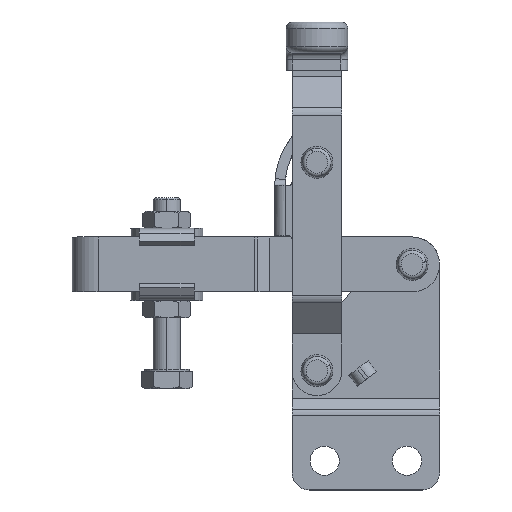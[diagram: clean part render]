
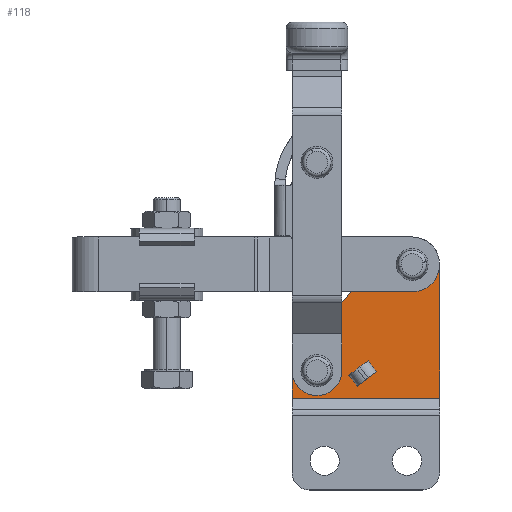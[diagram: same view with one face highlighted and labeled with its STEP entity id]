
A CAD part, top view. The second image highlights one B-rep face of the part: STEP entity #118.
In plain terms, the highlighted planar face has unit normal (0, 0, 1).
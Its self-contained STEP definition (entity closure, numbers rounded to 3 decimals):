
#118 = ADVANCED_FACE ( 'NONE', ( #2155, #6765, #9524, #1422 ), #7666, .T. ) ;
#144 = DIRECTION ( 'NONE',  ( 0., 0., 1. ) ) ;
#219 = VECTOR ( 'NONE', #7259, 1000. ) ;
#312 = ORIENTED_EDGE ( 'NONE', *, *, #1963, .F. ) ;
#342 = CARTESIAN_POINT ( 'NONE',  ( -20.817, 10.907, 0. ) ) ;
#398 = CIRCLE ( 'NONE', #3505, 2.55 ) ;
#442 = ORIENTED_EDGE ( 'NONE', *, *, #714, .T. ) ;
#564 = ORIENTED_EDGE ( 'NONE', *, *, #8556, .F. ) ;
#714 = EDGE_CURVE ( 'NONE', #5266, #9568, #3517, .T. ) ;
#768 = EDGE_CURVE ( 'NONE', #3185, #1654, #6420, .T. ) ;
#813 = VECTOR ( 'NONE', #2166, 1000. ) ;
#983 = VECTOR ( 'NONE', #10912, 1000. ) ;
#1044 = VERTEX_POINT ( 'NONE', #3323 ) ;
#1142 = CARTESIAN_POINT ( 'NONE',  ( -24., 3.5, 0. ) ) ;
#1282 = EDGE_CURVE ( 'NONE', #6265, #6826, #398, .T. ) ;
#1319 = DIRECTION ( 'NONE',  ( 0., 0., -1. ) ) ;
#1420 = CARTESIAN_POINT ( 'NONE',  ( -8., 38.95, 0. ) ) ;
#1422 = FACE_BOUND ( 'NONE', #8669, .T. ) ;
#1469 = ORIENTED_EDGE ( 'NONE', *, *, #9418, .F. ) ;
#1581 = DIRECTION ( 'NONE',  ( -0.602, 0.799, 0. ) ) ;
#1654 = VERTEX_POINT ( 'NONE', #10874 ) ;
#1703 = ORIENTED_EDGE ( 'NONE', *, *, #768, .F. ) ;
#1897 = LINE ( 'NONE', #1964, #9809 ) ;
#1963 = EDGE_CURVE ( 'NONE', #8527, #4979, #4682, .T. ) ;
#1964 = CARTESIAN_POINT ( 'NONE',  ( -43., 48.25, 0. ) ) ;
#2065 = EDGE_CURVE ( 'NONE', #6826, #6265, #6041, .T. ) ;
#2085 = VERTEX_POINT ( 'NONE', #6712 ) ;
#2155 = FACE_BOUND ( 'NONE', #9855, .T. ) ;
#2166 = DIRECTION ( 'NONE',  ( 0., -1., 0. ) ) ;
#2197 = LINE ( 'NONE', #8568, #3478 ) ;
#2215 = CARTESIAN_POINT ( 'NONE',  ( -43., 48.25, 0. ) ) ;
#2425 = VERTEX_POINT ( 'NONE', #9050 ) ;
#2486 = LINE ( 'NONE', #9831, #4255 ) ;
#2740 = CARTESIAN_POINT ( 'NONE',  ( -33.2, 8., 0. ) ) ;
#3185 = VERTEX_POINT ( 'NONE', #2740 ) ;
#3264 = EDGE_LOOP ( 'NONE', ( #5918, #6320 ) ) ;
#3275 = CARTESIAN_POINT ( 'NONE',  ( -24., 3.5, 0. ) ) ;
#3311 = EDGE_CURVE ( 'NONE', #10091, #1044, #4298, .T. ) ;
#3323 = CARTESIAN_POINT ( 'NONE',  ( -18.41, 7.713, 0. ) ) ;
#3397 = EDGE_CURVE ( 'NONE', #1044, #10119, #2486, .T. ) ;
#3468 = CARTESIAN_POINT ( 'NONE',  ( -29.786, 26.492, 0. ) ) ;
#3478 = VECTOR ( 'NONE', #5110, 1000. ) ;
#3505 = AXIS2_PLACEMENT_3D ( 'NONE', #1420, #7964, #9620 ) ;
#3517 = LINE ( 'NONE', #11698, #219 ) ;
#3856 = DIRECTION ( 'NONE',  ( 1., 0., 0. ) ) ;
#3879 = CARTESIAN_POINT ( 'NONE',  ( -5.45, 38.95, 0. ) ) ;
#3883 = CIRCLE ( 'NONE', #8118, 2.55 ) ;
#4009 = AXIS2_PLACEMENT_3D ( 'NONE', #7634, #1319, #7566 ) ;
#4255 = VECTOR ( 'NONE', #1581, 1000. ) ;
#4298 = LINE ( 'NONE', #3275, #6786 ) ;
#4372 = CARTESIAN_POINT ( 'NONE',  ( -35.75, 8., 0. ) ) ;
#4682 = CIRCLE ( 'NONE', #7571, 8. ) ;
#4956 = DIRECTION ( 'NONE',  ( 0., 0., 1. ) ) ;
#4979 = VERTEX_POINT ( 'NONE', #5404 ) ;
#5110 = DIRECTION ( 'NONE',  ( -0.799, -0.602, 0. ) ) ;
#5150 = DIRECTION ( 'NONE',  ( 1., 0., 0. ) ) ;
#5266 = VERTEX_POINT ( 'NONE', #10280 ) ;
#5363 = EDGE_LOOP ( 'NONE', ( #8363, #312, #1469, #11026, #6489, #442 ) ) ;
#5380 = DIRECTION ( 'NONE',  ( 0., 0., -1. ) ) ;
#5404 = CARTESIAN_POINT ( 'NONE',  ( 0., 38.95, 0. ) ) ;
#5699 = CARTESIAN_POINT ( 'NONE',  ( -8., 38.95, 0. ) ) ;
#5918 = ORIENTED_EDGE ( 'NONE', *, *, #1282, .F. ) ;
#5921 = ORIENTED_EDGE ( 'NONE', *, *, #3397, .F. ) ;
#6041 = CIRCLE ( 'NONE', #9868, 2.55 ) ;
#6098 = DIRECTION ( 'NONE',  ( 1., 0., 0. ) ) ;
#6233 = CARTESIAN_POINT ( 'NONE',  ( -8., 38.95, 0. ) ) ;
#6265 = VERTEX_POINT ( 'NONE', #3879 ) ;
#6277 = EDGE_CURVE ( 'NONE', #2085, #2425, #7683, .T. ) ;
#6320 = ORIENTED_EDGE ( 'NONE', *, *, #2065, .F. ) ;
#6420 = CIRCLE ( 'NONE', #7375, 2.55 ) ;
#6489 = ORIENTED_EDGE ( 'NONE', *, *, #10355, .T. ) ;
#6712 = CARTESIAN_POINT ( 'NONE',  ( -43., 8.593, 0. ) ) ;
#6765 = FACE_BOUND ( 'NONE', #3264, .T. ) ;
#6772 = CARTESIAN_POINT ( 'NONE',  ( 0., 48.25, 0. ) ) ;
#6786 = VECTOR ( 'NONE', #7994, 1000. ) ;
#6826 = VERTEX_POINT ( 'NONE', #11735 ) ;
#6971 = ORIENTED_EDGE ( 'NONE', *, *, #11101, .F. ) ;
#6983 = VECTOR ( 'NONE', #7150, 1000. ) ;
#7150 = DIRECTION ( 'NONE',  ( 0.665, 0.747, 0. ) ) ;
#7255 = LINE ( 'NONE', #10001, #983 ) ;
#7259 = DIRECTION ( 'NONE',  ( 1., 0., 0. ) ) ;
#7375 = AXIS2_PLACEMENT_3D ( 'NONE', #9891, #11577, #5150 ) ;
#7566 = DIRECTION ( 'NONE',  ( 1., 0., 0. ) ) ;
#7571 = AXIS2_PLACEMENT_3D ( 'NONE', #6233, #5380, #6098 ) ;
#7612 = ORIENTED_EDGE ( 'NONE', *, *, #8406, .F. ) ;
#7634 = CARTESIAN_POINT ( 'NONE',  ( -35., 8.593, 0. ) ) ;
#7666 = PLANE ( 'NONE',  #8900 ) ;
#7683 = CIRCLE ( 'NONE', #4009, 8. ) ;
#7855 = DIRECTION ( 'NONE',  ( 0., -1., 0. ) ) ;
#7893 = CARTESIAN_POINT ( 'NONE',  ( -13.978, 44.267, 0. ) ) ;
#7956 = EDGE_CURVE ( 'NONE', #4979, #9568, #11322, .T. ) ;
#7964 = DIRECTION ( 'NONE',  ( 0., 0., 1. ) ) ;
#7994 = DIRECTION ( 'NONE',  ( 0.799, 0.602, 0. ) ) ;
#8118 = AXIS2_PLACEMENT_3D ( 'NONE', #4372, #8840, #9783 ) ;
#8363 = ORIENTED_EDGE ( 'NONE', *, *, #7956, .F. ) ;
#8406 = EDGE_CURVE ( 'NONE', #10119, #11553, #2197, .T. ) ;
#8482 = CARTESIAN_POINT ( 'NONE',  ( 0., 0., 0. ) ) ;
#8527 = VERTEX_POINT ( 'NONE', #7893 ) ;
#8556 = EDGE_CURVE ( 'NONE', #1654, #3185, #3883, .T. ) ;
#8568 = CARTESIAN_POINT ( 'NONE',  ( -26.407, 6.695, 0. ) ) ;
#8669 = EDGE_LOOP ( 'NONE', ( #9628, #6971, #7612, #5921 ) ) ;
#8840 = DIRECTION ( 'NONE',  ( 0., 0., 1. ) ) ;
#8900 = AXIS2_PLACEMENT_3D ( 'NONE', #2215, #4956, #7855 ) ;
#9050 = CARTESIAN_POINT ( 'NONE',  ( -40.978, 13.909, 0. ) ) ;
#9418 = EDGE_CURVE ( 'NONE', #2425, #8527, #11711, .T. ) ;
#9524 = FACE_OUTER_BOUND ( 'NONE', #5363, .T. ) ;
#9568 = VERTEX_POINT ( 'NONE', #8482 ) ;
#9620 = DIRECTION ( 'NONE',  ( 1., 0., 0. ) ) ;
#9628 = ORIENTED_EDGE ( 'NONE', *, *, #3311, .F. ) ;
#9783 = DIRECTION ( 'NONE',  ( 1., 0., 0. ) ) ;
#9809 = VECTOR ( 'NONE', #10935, 1000. ) ;
#9831 = CARTESIAN_POINT ( 'NONE',  ( -20.817, 10.907, 0. ) ) ;
#9855 = EDGE_LOOP ( 'NONE', ( #1703, #564 ) ) ;
#9868 = AXIS2_PLACEMENT_3D ( 'NONE', #5699, #144, #3856 ) ;
#9891 = CARTESIAN_POINT ( 'NONE',  ( -35.75, 8., 0. ) ) ;
#10001 = CARTESIAN_POINT ( 'NONE',  ( -26.407, 6.695, 0. ) ) ;
#10091 = VERTEX_POINT ( 'NONE', #1142 ) ;
#10119 = VERTEX_POINT ( 'NONE', #342 ) ;
#10280 = CARTESIAN_POINT ( 'NONE',  ( -43., 0., 0. ) ) ;
#10355 = EDGE_CURVE ( 'NONE', #2085, #5266, #1897, .T. ) ;
#10874 = CARTESIAN_POINT ( 'NONE',  ( -38.3, 8., 0. ) ) ;
#10912 = DIRECTION ( 'NONE',  ( 0.602, -0.799, 0. ) ) ;
#10935 = DIRECTION ( 'NONE',  ( 0., -1., 0. ) ) ;
#11026 = ORIENTED_EDGE ( 'NONE', *, *, #6277, .F. ) ;
#11101 = EDGE_CURVE ( 'NONE', #11553, #10091, #7255, .T. ) ;
#11274 = CARTESIAN_POINT ( 'NONE',  ( -26.407, 6.695, 0. ) ) ;
#11322 = LINE ( 'NONE', #6772, #813 ) ;
#11553 = VERTEX_POINT ( 'NONE', #11274 ) ;
#11577 = DIRECTION ( 'NONE',  ( 0., 0., 1. ) ) ;
#11698 = CARTESIAN_POINT ( 'NONE',  ( -43., 0., 0. ) ) ;
#11711 = LINE ( 'NONE', #3468, #6983 ) ;
#11735 = CARTESIAN_POINT ( 'NONE',  ( -10.55, 38.95, 0. ) ) ;
